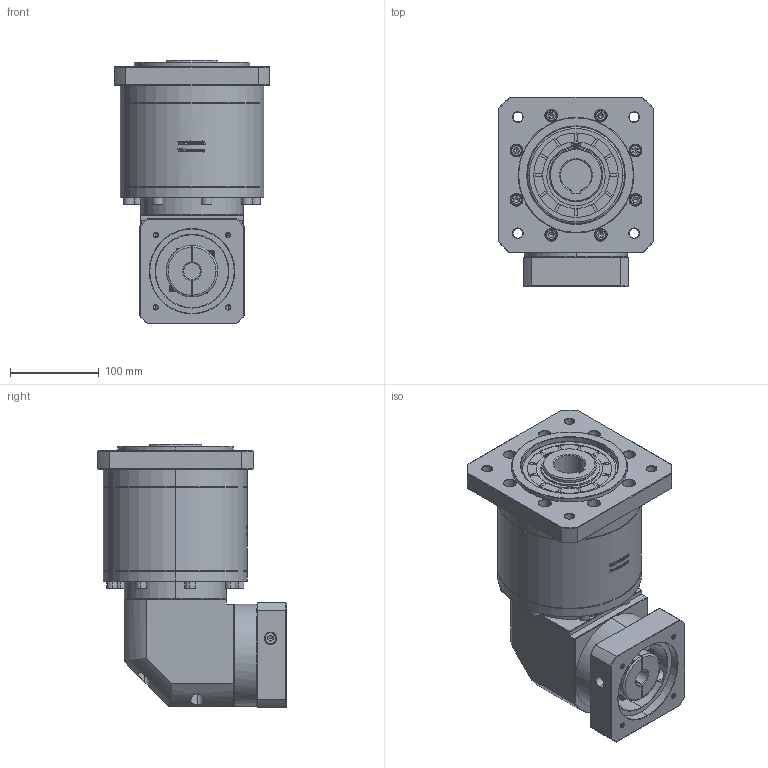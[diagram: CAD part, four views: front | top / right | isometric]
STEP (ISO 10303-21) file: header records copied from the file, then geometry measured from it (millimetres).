
FILE_DESCRIPTION (( 'STEP AP214' ), '1' );
FILE_NAME ('ZFR160A-K35-L3-19-95-115-M6.step', '2023-03-25T01:59:57', ( '' ), ( '' ), 'SwSTEP 2.0', 'SolidWorks 2016', '' );
FILE_SCHEMA (( 'AUTOMOTIVE_DESIGN' ));
Length unit declared in the file: millimetre
Products named in the file (1): ZFR160A-K35-L3-19-95-115-M6
Bounding box: 175 x 212.4 x 296.2 mm (x, y, z)
Volume: 5389846.9 mm3; surface area: 345649.8 mm2
Topology: 6 solids, 6 shells, 2712 faces, 7077 edges, 4536 vertices
Faces by surface type: plane 1365, bspline 494, cylinder 444, cone 365, torus 44
Entity records: 143930 total; most frequent: CARTESIAN_POINT 51590, ORIENTED_EDGE 14050, DIRECTION 11145, EDGE_CURVE 7025, VERTEX_POINT 4536, VECTOR 4425, LINE 4425, AXIS2_PLACEMENT_3D 3360
